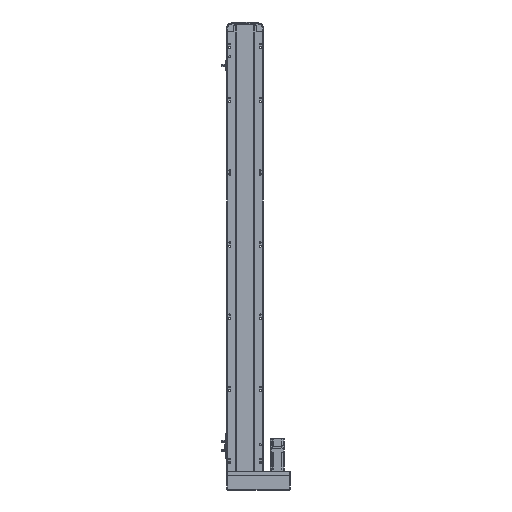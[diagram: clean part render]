
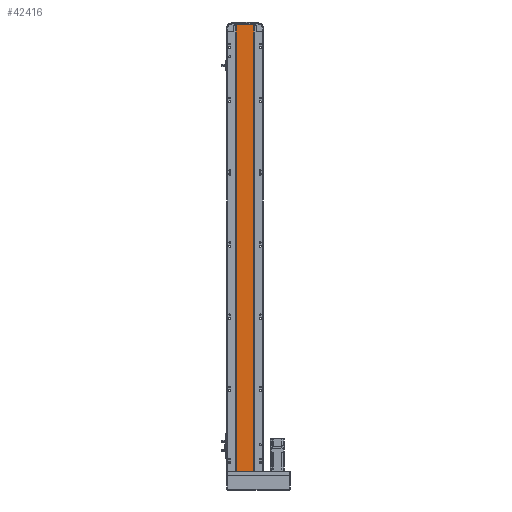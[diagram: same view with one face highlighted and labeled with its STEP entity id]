
A CAD part, front view. The second image highlights one B-rep face of the part: STEP entity #42416.
In plain terms, the highlighted planar face has unit normal (0, -1, 0).
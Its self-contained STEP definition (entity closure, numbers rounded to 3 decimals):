
#6971 = CARTESIAN_POINT ( 'NONE',  ( 0., 2., 0. ) ) ;
#9343 = EDGE_LOOP ( 'NONE', ( #48691, #9606, #11034, #41368 ) ) ;
#9606 = ORIENTED_EDGE ( 'NONE', *, *, #40554, .F. ) ;
#11034 = ORIENTED_EDGE ( 'NONE', *, *, #30932, .F. ) ;
#13153 = DIRECTION ( 'NONE',  ( 0., 0., 1. ) ) ;
#13650 = EDGE_CURVE ( 'NONE', #28908, #15749, #57908, .T. ) ;
#15749 = VERTEX_POINT ( 'NONE', #56271 ) ;
#16238 = EDGE_CURVE ( 'NONE', #27295, #28908, #27796, .T. ) ;
#17615 = DIRECTION ( 'NONE',  ( 1., 0., 0. ) ) ;
#20350 = VECTOR ( 'NONE', #32277, 1000. ) ;
#21552 = VERTEX_POINT ( 'NONE', #51424 ) ;
#21817 = LINE ( 'NONE', #41530, #20350 ) ;
#25437 = DIRECTION ( 'NONE',  ( 1., 0., 0. ) ) ;
#27295 = VERTEX_POINT ( 'NONE', #40020 ) ;
#27796 = LINE ( 'NONE', #33937, #53731 ) ;
#28908 = VERTEX_POINT ( 'NONE', #48451 ) ;
#29523 = AXIS2_PLACEMENT_3D ( 'NONE', #31680, #54367, #13153 ) ;
#30501 = CARTESIAN_POINT ( 'NONE',  ( -24.5, 2., 1237. ) ) ;
#30932 = EDGE_CURVE ( 'NONE', #27295, #21552, #51490, .T. ) ;
#31680 = CARTESIAN_POINT ( 'NONE',  ( 0., 2., 1237. ) ) ;
#32277 = DIRECTION ( 'NONE',  ( 0., 0., -1. ) ) ;
#33937 = CARTESIAN_POINT ( 'NONE',  ( -24.5, 2., 1237. ) ) ;
#34916 = VECTOR ( 'NONE', #25437, 1000. ) ;
#40020 = CARTESIAN_POINT ( 'NONE',  ( -24.5, 2., 1237. ) ) ;
#40554 = EDGE_CURVE ( 'NONE', #21552, #15749, #21817, .T. ) ;
#41368 = ORIENTED_EDGE ( 'NONE', *, *, #16238, .T. ) ;
#41530 = CARTESIAN_POINT ( 'NONE',  ( 24.5, 2., 1237. ) ) ;
#42416 = ADVANCED_FACE ( 'NONE', ( #54476 ), #54570, .F. ) ;
#43181 = DIRECTION ( 'NONE',  ( 0., 0., -1. ) ) ;
#46472 = VECTOR ( 'NONE', #17615, 1000. ) ;
#48451 = CARTESIAN_POINT ( 'NONE',  ( -24.5, 2., 0. ) ) ;
#48691 = ORIENTED_EDGE ( 'NONE', *, *, #13650, .T. ) ;
#51424 = CARTESIAN_POINT ( 'NONE',  ( 24.5, 2., 1237. ) ) ;
#51490 = LINE ( 'NONE', #30501, #46472 ) ;
#53731 = VECTOR ( 'NONE', #43181, 1000. ) ;
#54367 = DIRECTION ( 'NONE',  ( 0., 1., 0. ) ) ;
#54476 = FACE_OUTER_BOUND ( 'NONE', #9343, .T. ) ;
#54570 = PLANE ( 'NONE',  #29523 ) ;
#56271 = CARTESIAN_POINT ( 'NONE',  ( 24.5, 2., 0. ) ) ;
#57908 = LINE ( 'NONE', #6971, #34916 ) ;
